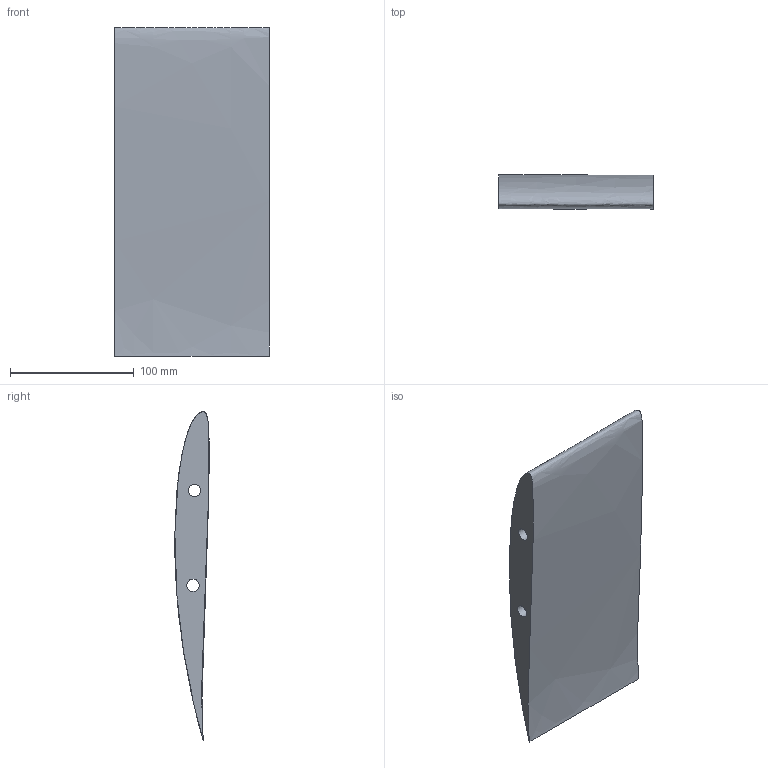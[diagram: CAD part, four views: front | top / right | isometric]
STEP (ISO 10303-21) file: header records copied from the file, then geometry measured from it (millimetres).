
FILE_DESCRIPTION(/* description */ (''),/* implementation_level */ '2;1');
FILE_NAME(/* name */ 'Wing cap v6.step',/* time_stamp */ '2023-09-02T21:55:56+03:00',/* author */ (''),/* organization */ (''),/* preprocessor_version */ 'ST-DEVELOPER v20',/* originating_system */ 'Autodesk Translation Framework v12.9.0.99',/* authorisation */ '');
FILE_SCHEMA (('AUTOMOTIVE_DESIGN { 1 0 10303 214 3 1 1 }'));
Length unit declared in the file: millimetre
Products named in the file (1): Wing cap
Bounding box: 125 x 27.75 x 265.03 mm (x, y, z)
Volume: 528030.9 mm3; surface area: 84700 mm2
Topology: 1 solids, 1 shells, 5 faces, 9 edges, 6 vertices
Faces by surface type: cylinder 2, plane 2, bspline 1
Full cylindrical faces by diameter (mm): 10 x2
Entity records: 1782 total; most frequent: CARTESIAN_POINT 1638, DIRECTION 21, ORIENTED_EDGE 18, EDGE_LOOP 9, EDGE_CURVE 9, AXIS2_PLACEMENT_3D 9, VERTEX_POINT 6, FACE_OUTER_BOUND 5
